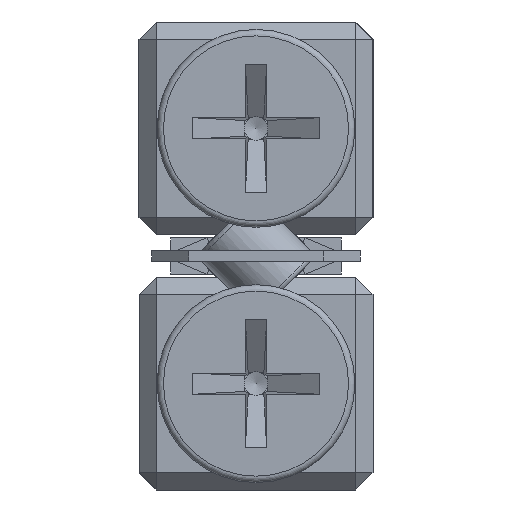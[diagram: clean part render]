
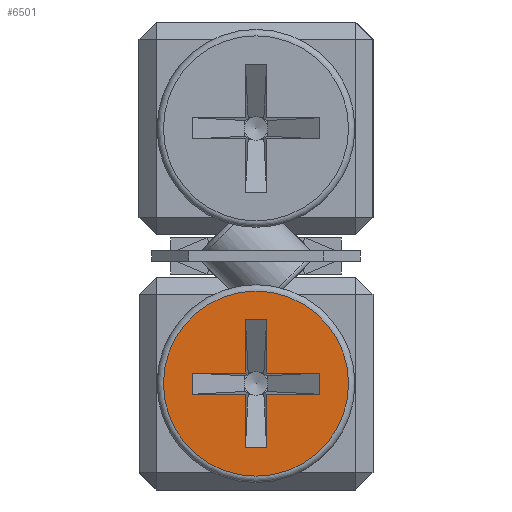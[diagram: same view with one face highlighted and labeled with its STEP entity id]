
A CAD part, left-side view. The second image highlights one B-rep face of the part: STEP entity #6501.
In plain terms, the highlighted planar face has unit normal (-1, 0, 0).
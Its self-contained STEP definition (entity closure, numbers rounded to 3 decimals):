
#4 = VERTEX_POINT ( 'NONE', #4931 ) ;
#86 = VERTEX_POINT ( 'NONE', #6984 ) ;
#241 = EDGE_CURVE ( 'NONE', #7408, #11544, #1649, .T. ) ;
#286 = VECTOR ( 'NONE', #2842, 1000. ) ;
#336 = DIRECTION ( 'NONE',  ( 0., 1., 0. ) ) ;
#470 = CARTESIAN_POINT ( 'NONE',  ( -82., 4.65, 5. ) ) ;
#490 = CARTESIAN_POINT ( 'NONE',  ( -82., 0.5, 2. ) ) ;
#545 = CARTESIAN_POINT ( 'NONE',  ( -82., -0.5, 4.5 ) ) ;
#1036 = EDGE_CURVE ( 'NONE', #4027, #1630, #12011, .T. ) ;
#1135 = VECTOR ( 'NONE', #336, 1000. ) ;
#1155 = ORIENTED_EDGE ( 'NONE', *, *, #1036, .T. ) ;
#1193 = EDGE_CURVE ( 'NONE', #1647, #6924, #4371, .T. ) ;
#1204 = CARTESIAN_POINT ( 'NONE',  ( -82., 0., 5. ) ) ;
#1334 = DIRECTION ( 'NONE',  ( 0., 0., -1. ) ) ;
#1362 = CARTESIAN_POINT ( 'NONE',  ( -82., 0.5, 8. ) ) ;
#1431 = VECTOR ( 'NONE', #10789, 1000. ) ;
#1544 = ORIENTED_EDGE ( 'NONE', *, *, #3409, .T. ) ;
#1630 = VERTEX_POINT ( 'NONE', #6928 ) ;
#1647 = VERTEX_POINT ( 'NONE', #8784 ) ;
#1649 = LINE ( 'NONE', #10224, #5990 ) ;
#1664 = DIRECTION ( 'NONE',  ( 0., 0., -1. ) ) ;
#1848 = VERTEX_POINT ( 'NONE', #9403 ) ;
#1979 = EDGE_CURVE ( 'NONE', #4, #1848, #2950, .T. ) ;
#2050 = EDGE_CURVE ( 'NONE', #3304, #3304, #9216, .T. ) ;
#2079 = CARTESIAN_POINT ( 'NONE',  ( -82., -3., 4.5 ) ) ;
#2204 = CARTESIAN_POINT ( 'NONE',  ( -82., 3., 5.5 ) ) ;
#2349 = DIRECTION ( 'NONE',  ( 0., 0., -1. ) ) ;
#2481 = DIRECTION ( 'NONE',  ( 0., -1., 0. ) ) ;
#2608 = VECTOR ( 'NONE', #6152, 1000. ) ;
#2682 = CARTESIAN_POINT ( 'NONE',  ( -82., 0.5, 4.5 ) ) ;
#2842 = DIRECTION ( 'NONE',  ( 0., -1., 0. ) ) ;
#2950 = LINE ( 'NONE', #6655, #11071 ) ;
#3116 = EDGE_CURVE ( 'NONE', #4, #7677, #4089, .T. ) ;
#3117 = ORIENTED_EDGE ( 'NONE', *, *, #1979, .F. ) ;
#3168 = CARTESIAN_POINT ( 'NONE',  ( -82., 0.5, 2. ) ) ;
#3243 = DIRECTION ( 'NONE',  ( 0., 0., -1. ) ) ;
#3304 = VERTEX_POINT ( 'NONE', #8351 ) ;
#3409 = EDGE_CURVE ( 'NONE', #7408, #4027, #11035, .T. ) ;
#3584 = ORIENTED_EDGE ( 'NONE', *, *, #3116, .T. ) ;
#3591 = LINE ( 'NONE', #4482, #7215 ) ;
#4012 = DIRECTION ( 'NONE',  ( 0., -1., 0. ) ) ;
#4027 = VERTEX_POINT ( 'NONE', #2682 ) ;
#4089 = LINE ( 'NONE', #9850, #10995 ) ;
#4096 = DIRECTION ( 'NONE',  ( -1., 0., 0. ) ) ;
#4228 = LINE ( 'NONE', #8121, #12172 ) ;
#4352 = DIRECTION ( 'NONE',  ( 0., 0., -1. ) ) ;
#4371 = LINE ( 'NONE', #7312, #1135 ) ;
#4482 = CARTESIAN_POINT ( 'NONE',  ( -82., 3., 5.5 ) ) ;
#4497 = EDGE_CURVE ( 'NONE', #10346, #1630, #3591, .T. ) ;
#4597 = DIRECTION ( 'NONE',  ( 0., 0., 1. ) ) ;
#4931 = CARTESIAN_POINT ( 'NONE',  ( -82., -3., 4.5 ) ) ;
#5080 = ORIENTED_EDGE ( 'NONE', *, *, #9647, .T. ) ;
#5087 = ORIENTED_EDGE ( 'NONE', *, *, #7400, .T. ) ;
#5356 = ORIENTED_EDGE ( 'NONE', *, *, #7016, .T. ) ;
#5474 = EDGE_LOOP ( 'NONE', ( #6594 ) ) ;
#5591 = EDGE_LOOP ( 'NONE', ( #6626, #8179, #5080, #6399, #3117, #3584, #5087, #11630, #1544, #1155, #11344, #5356 ) ) ;
#5990 = VECTOR ( 'NONE', #2481, 1000. ) ;
#6152 = DIRECTION ( 'NONE',  ( 0., 0., 1. ) ) ;
#6289 = PLANE ( 'NONE',  #10500 ) ;
#6399 = ORIENTED_EDGE ( 'NONE', *, *, #6787, .T. ) ;
#6459 = CARTESIAN_POINT ( 'NONE',  ( -82., 0.5, 2. ) ) ;
#6501 = ADVANCED_FACE ( 'NONE', ( #8217, #9244 ), #6289, .F. ) ;
#6520 = CARTESIAN_POINT ( 'NONE',  ( -82., -0.5, 8. ) ) ;
#6594 = ORIENTED_EDGE ( 'NONE', *, *, #2050, .T. ) ;
#6626 = ORIENTED_EDGE ( 'NONE', *, *, #12366, .T. ) ;
#6655 = CARTESIAN_POINT ( 'NONE',  ( -82., -3., 4.5 ) ) ;
#6762 = VECTOR ( 'NONE', #4597, 1000. ) ;
#6787 = EDGE_CURVE ( 'NONE', #86, #1848, #8031, .T. ) ;
#6924 = VERTEX_POINT ( 'NONE', #1362 ) ;
#6928 = CARTESIAN_POINT ( 'NONE',  ( -82., 3., 4.5 ) ) ;
#6984 = CARTESIAN_POINT ( 'NONE',  ( -82., -0.5, 5.5 ) ) ;
#7010 = CARTESIAN_POINT ( 'NONE',  ( -82., 0.5, 5.5 ) ) ;
#7016 = EDGE_CURVE ( 'NONE', #10346, #10194, #11420, .T. ) ;
#7215 = VECTOR ( 'NONE', #4352, 1000. ) ;
#7312 = CARTESIAN_POINT ( 'NONE',  ( -82., -0.5, 8. ) ) ;
#7321 = DIRECTION ( 'NONE',  ( 0., 1., 0. ) ) ;
#7400 = EDGE_CURVE ( 'NONE', #7677, #11544, #9409, .T. ) ;
#7408 = VERTEX_POINT ( 'NONE', #6459 ) ;
#7654 = VECTOR ( 'NONE', #4012, 1000. ) ;
#7677 = VERTEX_POINT ( 'NONE', #545 ) ;
#8031 = LINE ( 'NONE', #9825, #7654 ) ;
#8121 = CARTESIAN_POINT ( 'NONE',  ( -82., -0.5, 8. ) ) ;
#8179 = ORIENTED_EDGE ( 'NONE', *, *, #1193, .F. ) ;
#8217 = FACE_OUTER_BOUND ( 'NONE', #5474, .T. ) ;
#8237 = LINE ( 'NONE', #490, #6762 ) ;
#8351 = CARTESIAN_POINT ( 'NONE',  ( -82., 0., 0.65 ) ) ;
#8784 = CARTESIAN_POINT ( 'NONE',  ( -82., -0.5, 8. ) ) ;
#9123 = DIRECTION ( 'NONE',  ( 1., 0., 0. ) ) ;
#9216 = CIRCLE ( 'NONE', #11486, 4.35 ) ;
#9244 = FACE_BOUND ( 'NONE', #5591, .T. ) ;
#9403 = CARTESIAN_POINT ( 'NONE',  ( -82., -3., 5.5 ) ) ;
#9409 = LINE ( 'NONE', #6520, #10095 ) ;
#9647 = EDGE_CURVE ( 'NONE', #1647, #86, #4228, .T. ) ;
#9825 = CARTESIAN_POINT ( 'NONE',  ( -82., 3., 5.5 ) ) ;
#9850 = CARTESIAN_POINT ( 'NONE',  ( -82., -3., 4.5 ) ) ;
#10095 = VECTOR ( 'NONE', #1664, 1000. ) ;
#10194 = VERTEX_POINT ( 'NONE', #7010 ) ;
#10224 = CARTESIAN_POINT ( 'NONE',  ( -82., 0.5, 2. ) ) ;
#10269 = CARTESIAN_POINT ( 'NONE',  ( -82., -0.5, 2. ) ) ;
#10346 = VERTEX_POINT ( 'NONE', #2204 ) ;
#10450 = CARTESIAN_POINT ( 'NONE',  ( -82., 3., 5.5 ) ) ;
#10500 = AXIS2_PLACEMENT_3D ( 'NONE', #470, #9123, #3243 ) ;
#10566 = DIRECTION ( 'NONE',  ( 0., 0., 1. ) ) ;
#10789 = DIRECTION ( 'NONE',  ( 0., 1., 0. ) ) ;
#10995 = VECTOR ( 'NONE', #7321, 1000. ) ;
#11035 = LINE ( 'NONE', #3168, #2608 ) ;
#11071 = VECTOR ( 'NONE', #10566, 1000. ) ;
#11344 = ORIENTED_EDGE ( 'NONE', *, *, #4497, .F. ) ;
#11420 = LINE ( 'NONE', #10450, #286 ) ;
#11486 = AXIS2_PLACEMENT_3D ( 'NONE', #1204, #4096, #2349 ) ;
#11544 = VERTEX_POINT ( 'NONE', #10269 ) ;
#11630 = ORIENTED_EDGE ( 'NONE', *, *, #241, .F. ) ;
#12011 = LINE ( 'NONE', #2079, #1431 ) ;
#12172 = VECTOR ( 'NONE', #1334, 1000. ) ;
#12366 = EDGE_CURVE ( 'NONE', #10194, #6924, #8237, .T. ) ;
